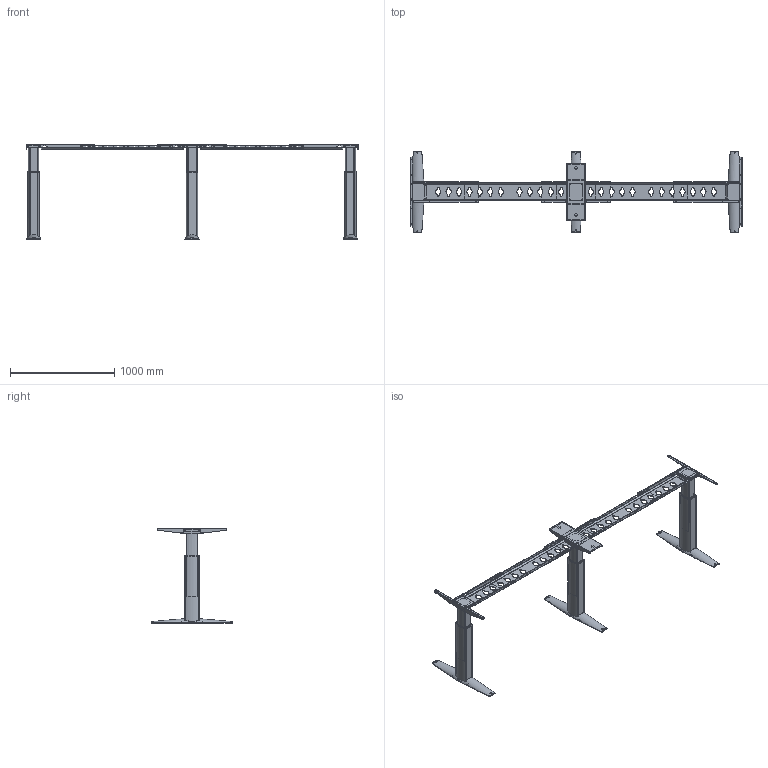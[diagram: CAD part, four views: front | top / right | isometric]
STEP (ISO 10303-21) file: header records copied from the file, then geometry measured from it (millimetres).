
FILE_DESCRIPTION (( 'STEP AP203' ), '1' );
FILE_NAME ('Tech-draw_501-23_XX400K.STEP', '2019-12-19T09:35:39', ( '' ), ( '' ), 'SwSTEP 2.0', 'SolidWorks 2018', '' );
FILE_SCHEMA (( 'CONFIG_CONTROL_DESIGN' ));
Length unit declared in the file: millimetre
Products named in the file (30): 108910; 311630_shell view1; 313080; 107860_black; 313490; 107880_Shell view; 312140; 107870_black; 311680; 147930_400K max; 313100; 300600_black; 312790; 350450; 350870; 111360_shell view; 313070; 108920_black1; 311690_Shell view; 306980_black; 350460; 150340_501-23 XB400; 148450; 111500_black; Tech-draw_501-23_XX400K; 311700_Shell view; 350880; 350470; 311670; 304650_black
Assembly tree (76 placements, depth 6):
  Tech-draw_501-23_XX400K
    150340_501-23 XB400
      148450
        350870
        350880  x2
      147930_400K max  x2
        350470
        350450
        350460
        304650_black
      111500_black  x3
        107870_black
          107860_black
            311670
            311680
        111360_shell view
          107880_Shell view
            311690_Shell view
            311700_Shell view
            311630_shell view1
          312140
        306980_black
      108920_black1  x3
        108910
          313080
          313070  x2
          313100  x2
        312790
      313490  x2
      300600_black  x4
      304650_black  x20
Bounding box: 3182.98 x 779.87 x 910.5 mm (x, y, z)
Volume: 7313244.4 mm3; surface area: 6727198 mm2
Topology: 114 solids, 114 shells, 4930 faces, 12484 edges, 8012 vertices
Faces by surface type: plane 2812, cylinder 1426, bspline 366, torus 258, cone 44, sphere 24
Full cylindrical faces by diameter (mm): 4 x12, 4.5 x18, 5 x82, 5.3 x12, 6 x58, 6.3 x40, 6.5 x22, 7 x4, 7.5 x4, 9 x24, 10 x12, 11 x4
Entity records: 65081 total; most frequent: CARTESIAN_POINT 13757, DIRECTION 9738, ORIENTED_EDGE 9496, EDGE_CURVE 4748, AXIS2_PLACEMENT_3D 3332, VERTEX_POINT 3138, VECTOR 3074, LINE 3074
